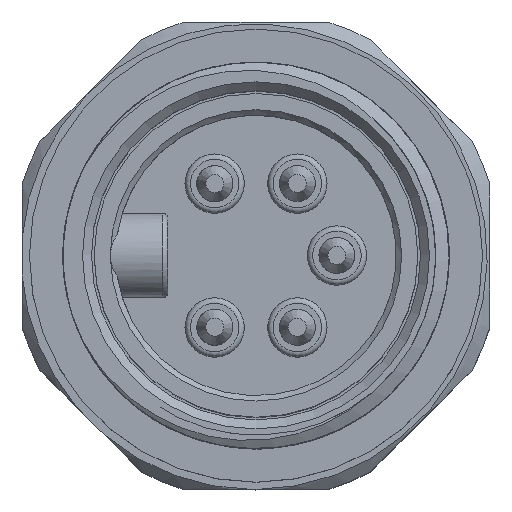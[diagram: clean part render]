
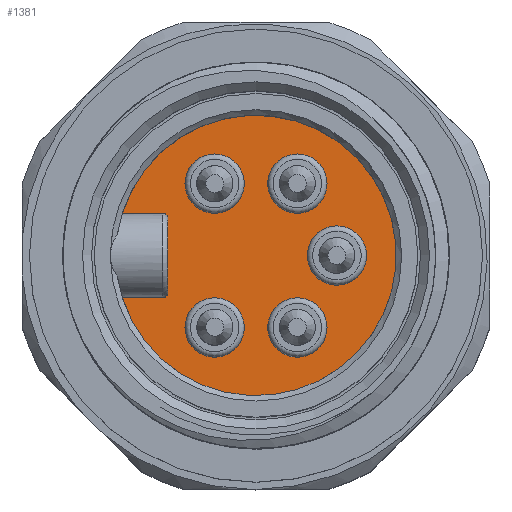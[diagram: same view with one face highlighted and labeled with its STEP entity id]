
A CAD part, top view. The second image highlights one B-rep face of the part: STEP entity #1381.
In plain terms, the highlighted planar face has unit normal (0, 0, 1).
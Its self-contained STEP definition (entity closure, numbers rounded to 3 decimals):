
#944=PLANE('',#11943);
#1381=ADVANCED_FACE('',(#3047,#3048,#3049,#3050,#3051,#3052),#944,.T.);
#2248=LINE('',#42693,#2798);
#2249=LINE('',#42695,#2799);
#2250=LINE('',#42699,#2800);
#2798=VECTOR('',#13953,1.);
#2799=VECTOR('',#13954,1.);
#2800=VECTOR('',#13957,1.);
#3047=FACE_BOUND('',#3599,.T.);
#3048=FACE_BOUND('',#3600,.T.);
#3049=FACE_BOUND('',#3601,.T.);
#3050=FACE_BOUND('',#3602,.T.);
#3051=FACE_BOUND('',#3603,.T.);
#3052=FACE_BOUND('',#3604,.T.);
#3599=EDGE_LOOP('',(#6550,#6551,#6552,#6553,#6554,#6555));
#3600=EDGE_LOOP('',(#6556));
#3601=EDGE_LOOP('',(#6557));
#3602=EDGE_LOOP('',(#6558));
#3603=EDGE_LOOP('',(#6559));
#3604=EDGE_LOOP('',(#6560));
#4280=CIRCLE('',#11933,7.8);
#4282=CIRCLE('',#11936,0.3);
#4283=CIRCLE('',#11937,0.3);
#4284=CIRCLE('',#11938,1.65);
#4285=CIRCLE('',#11939,1.65);
#4286=CIRCLE('',#11940,1.65);
#4287=CIRCLE('',#11941,1.65);
#4288=CIRCLE('',#11942,1.65);
#6550=ORIENTED_EDGE('',*,*,#10105,.F.);
#6551=ORIENTED_EDGE('',*,*,#10100,.F.);
#6552=ORIENTED_EDGE('',*,*,#10106,.T.);
#6553=ORIENTED_EDGE('',*,*,#10107,.T.);
#6554=ORIENTED_EDGE('',*,*,#10108,.T.);
#6555=ORIENTED_EDGE('',*,*,#10109,.T.);
#6556=ORIENTED_EDGE('',*,*,#10110,.F.);
#6557=ORIENTED_EDGE('',*,*,#10111,.F.);
#6558=ORIENTED_EDGE('',*,*,#10112,.F.);
#6559=ORIENTED_EDGE('',*,*,#10113,.F.);
#6560=ORIENTED_EDGE('',*,*,#10114,.F.);
#8590=VERTEX_POINT('',#42660);
#8592=VERTEX_POINT('',#42663);
#8596=VERTEX_POINT('',#42694);
#8597=VERTEX_POINT('',#42696);
#8598=VERTEX_POINT('',#42698);
#8599=VERTEX_POINT('',#42700);
#8600=VERTEX_POINT('',#42703);
#8601=VERTEX_POINT('',#42705);
#8602=VERTEX_POINT('',#42707);
#8603=VERTEX_POINT('',#42709);
#8604=VERTEX_POINT('',#42711);
#10100=EDGE_CURVE('',#8590,#8592,#4280,.T.);
#10105=EDGE_CURVE('',#8592,#8596,#2248,.T.);
#10106=EDGE_CURVE('',#8590,#8597,#2249,.T.);
#10107=EDGE_CURVE('',#8597,#8598,#4282,.T.);
#10108=EDGE_CURVE('',#8598,#8599,#2250,.T.);
#10109=EDGE_CURVE('',#8599,#8596,#4283,.T.);
#10110=EDGE_CURVE('',#8600,#8600,#4284,.T.);
#10111=EDGE_CURVE('',#8601,#8601,#4285,.T.);
#10112=EDGE_CURVE('',#8602,#8602,#4286,.T.);
#10113=EDGE_CURVE('',#8603,#8603,#4287,.T.);
#10114=EDGE_CURVE('',#8604,#8604,#4288,.T.);
#11933=AXIS2_PLACEMENT_3D('',#42662,#13946,#13947);
#11936=AXIS2_PLACEMENT_3D('',#42697,#13955,#13956);
#11937=AXIS2_PLACEMENT_3D('',#42701,#13958,#13959);
#11938=AXIS2_PLACEMENT_3D('',#42702,#13960,#13961);
#11939=AXIS2_PLACEMENT_3D('',#42704,#13962,#13963);
#11940=AXIS2_PLACEMENT_3D('',#42706,#13964,#13965);
#11941=AXIS2_PLACEMENT_3D('',#42708,#13966,#13967);
#11942=AXIS2_PLACEMENT_3D('',#42710,#13968,#13969);
#11943=AXIS2_PLACEMENT_3D('',#42712,#13970,#13971);
#13946=DIRECTION('',(0.,0.,-1.));
#13947=DIRECTION('',(1.,0.,0.));
#13953=DIRECTION('',(1.,0.,0.));
#13954=DIRECTION('',(1.,0.,0.));
#13955=DIRECTION('',(0.,0.,-1.));
#13956=DIRECTION('',(1.,0.,0.));
#13957=DIRECTION('',(0.,-1.,0.));
#13958=DIRECTION('',(0.,0.,-1.));
#13959=DIRECTION('',(1.,0.,0.));
#13960=DIRECTION('',(0.,0.,1.));
#13961=DIRECTION('',(0.,1.,0.));
#13962=DIRECTION('',(0.,0.,1.));
#13963=DIRECTION('',(0.,1.,0.));
#13964=DIRECTION('',(0.,0.,1.));
#13965=DIRECTION('',(0.,1.,0.));
#13966=DIRECTION('',(0.,0.,1.));
#13967=DIRECTION('',(0.,1.,0.));
#13968=DIRECTION('',(0.,0.,1.));
#13969=DIRECTION('',(0.,1.,0.));
#13970=DIRECTION('',(0.,0.,1.));
#13971=DIRECTION('',(-1.,0.,0.));
#42660=CARTESIAN_POINT('',(3.462,47.417,18.5));
#42662=CARTESIAN_POINT('',(10.9,45.067,18.5));
#42663=CARTESIAN_POINT('',(3.462,42.717,18.5));
#42693=CARTESIAN_POINT('',(-2.03,42.717,18.5));
#42694=CARTESIAN_POINT('',(5.7,42.717,18.5));
#42695=CARTESIAN_POINT('',(-2.03,47.417,18.5));
#42696=CARTESIAN_POINT('',(5.7,47.417,18.5));
#42697=CARTESIAN_POINT('',(5.7,47.117,18.5));
#42698=CARTESIAN_POINT('',(6.,47.117,18.5));
#42699=CARTESIAN_POINT('',(6.,45.067,18.5));
#42700=CARTESIAN_POINT('',(6.,43.017,18.5));
#42701=CARTESIAN_POINT('',(5.7,43.017,18.5));
#42702=CARTESIAN_POINT('',(8.6,41.067,18.5));
#42703=CARTESIAN_POINT('',(8.6,42.717,18.5));
#42704=CARTESIAN_POINT('',(8.6,49.067,18.5));
#42705=CARTESIAN_POINT('',(8.6,50.717,18.5));
#42706=CARTESIAN_POINT('',(13.2,41.067,18.5));
#42707=CARTESIAN_POINT('',(13.2,42.717,18.5));
#42708=CARTESIAN_POINT('',(13.2,49.067,18.5));
#42709=CARTESIAN_POINT('',(13.2,50.717,18.5));
#42710=CARTESIAN_POINT('',(15.4,45.067,18.5));
#42711=CARTESIAN_POINT('',(15.4,46.717,18.5));
#42712=CARTESIAN_POINT('',(10.9,45.067,18.5));
